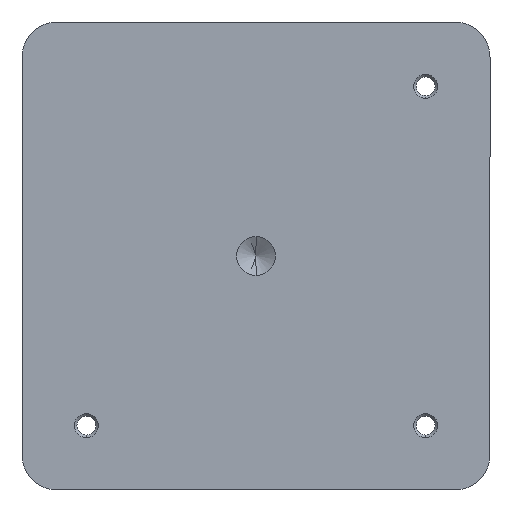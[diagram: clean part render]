
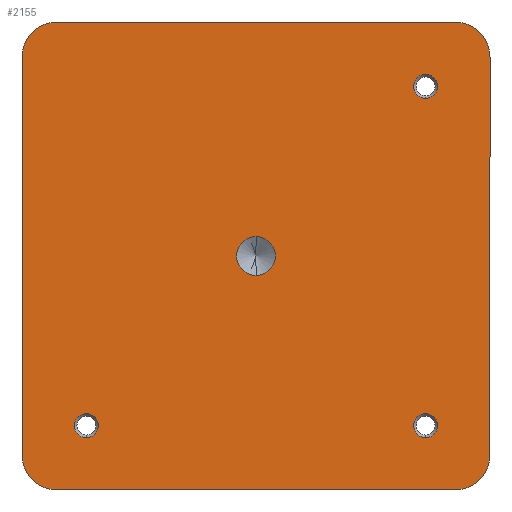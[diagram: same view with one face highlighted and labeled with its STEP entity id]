
A CAD part, front view. The second image highlights one B-rep face of the part: STEP entity #2155.
In plain terms, the highlighted planar face has unit normal (0, -1, 0).
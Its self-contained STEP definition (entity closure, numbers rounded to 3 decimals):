
#7 = AXIS2_PLACEMENT_3D ( 'NONE', #3069, #1051, #1799 ) ;
#30 = LINE ( 'NONE', #46, #2536 ) ;
#46 = CARTESIAN_POINT ( 'NONE',  ( -20., 0., -20. ) ) ;
#110 = DIRECTION ( 'NONE',  ( 0., 0., 1. ) ) ;
#132 = CIRCLE ( 'NONE', #432, 3. ) ;
#164 = AXIS2_PLACEMENT_3D ( 'NONE', #2588, #1459, #605 ) ;
#171 = EDGE_LOOP ( 'NONE', ( #1398, #2541, #2089, #1938, #2310, #997, #2315, #1463 ) ) ;
#284 = CARTESIAN_POINT ( 'NONE',  ( 17., 0., 20. ) ) ;
#289 = CARTESIAN_POINT ( 'NONE',  ( -17., 0., 20. ) ) ;
#297 = DIRECTION ( 'NONE',  ( 0., 1., 0. ) ) ;
#309 = DIRECTION ( 'NONE',  ( 0., -1., 0. ) ) ;
#324 = VERTEX_POINT ( 'NONE', #2363 ) ;
#384 = DIRECTION ( 'NONE',  ( 0., -1., 0. ) ) ;
#387 = EDGE_CURVE ( 'NONE', #2761, #525, #2923, .T. ) ;
#388 = DIRECTION ( 'NONE',  ( 0., 0., 1. ) ) ;
#424 = CIRCLE ( 'NONE', #1166, 1.025 ) ;
#432 = AXIS2_PLACEMENT_3D ( 'NONE', #1635, #627, #3082 ) ;
#487 = FACE_BOUND ( 'NONE', #2981, .T. ) ;
#525 = VERTEX_POINT ( 'NONE', #284 ) ;
#555 = DIRECTION ( 'NONE',  ( 0., 0., -1. ) ) ;
#558 = CARTESIAN_POINT ( 'NONE',  ( -14.5, 0., -15.525 ) ) ;
#566 = EDGE_CURVE ( 'NONE', #324, #2126, #1787, .T. ) ;
#605 = DIRECTION ( 'NONE',  ( 0., 0., -1. ) ) ;
#608 = CARTESIAN_POINT ( 'NONE',  ( 14.5, 0., -14.5 ) ) ;
#617 = EDGE_CURVE ( 'NONE', #1922, #1416, #132, .T. ) ;
#627 = DIRECTION ( 'NONE',  ( 0., -1., 0. ) ) ;
#703 = FACE_BOUND ( 'NONE', #2701, .T. ) ;
#709 = CARTESIAN_POINT ( 'NONE',  ( -20., 0., 20. ) ) ;
#716 = CARTESIAN_POINT ( 'NONE',  ( 0., 0., 0. ) ) ;
#728 = CARTESIAN_POINT ( 'NONE',  ( -20., 0., 17. ) ) ;
#758 = DIRECTION ( 'NONE',  ( 1., 0., 0. ) ) ;
#832 = DIRECTION ( 'NONE',  ( 0., -1., 0. ) ) ;
#843 = AXIS2_PLACEMENT_3D ( 'NONE', #1089, #1034, #1803 ) ;
#852 = CARTESIAN_POINT ( 'NONE',  ( -17., 0., 17. ) ) ;
#876 = CARTESIAN_POINT ( 'NONE',  ( -14.5, 0., -13.475 ) ) ;
#908 = ORIENTED_EDGE ( 'NONE', *, *, #1194, .F. ) ;
#939 = CARTESIAN_POINT ( 'NONE',  ( 14.5, 0., 13.475 ) ) ;
#968 = VERTEX_POINT ( 'NONE', #2478 ) ;
#981 = EDGE_CURVE ( 'NONE', #2477, #1387, #3022, .T. ) ;
#995 = AXIS2_PLACEMENT_3D ( 'NONE', #608, #297, #2039 ) ;
#997 = ORIENTED_EDGE ( 'NONE', *, *, #981, .T. ) ;
#1016 = CARTESIAN_POINT ( 'NONE',  ( -17., 0., -20. ) ) ;
#1034 = DIRECTION ( 'NONE',  ( 0., -1., 0. ) ) ;
#1039 = LINE ( 'NONE', #2766, #2092 ) ;
#1051 = DIRECTION ( 'NONE',  ( 0., 1., 0. ) ) ;
#1066 = DIRECTION ( 'NONE',  ( 0., 0., 1. ) ) ;
#1089 = CARTESIAN_POINT ( 'NONE',  ( 0., 0., 0. ) ) ;
#1097 = CARTESIAN_POINT ( 'NONE',  ( 20., 0., -20. ) ) ;
#1154 = VECTOR ( 'NONE', #3045, 1000. ) ;
#1164 = AXIS2_PLACEMENT_3D ( 'NONE', #2127, #1885, #388 ) ;
#1166 = AXIS2_PLACEMENT_3D ( 'NONE', #2693, #2888, #1911 ) ;
#1194 = EDGE_CURVE ( 'NONE', #2703, #968, #2430, .T. ) ;
#1198 = ORIENTED_EDGE ( 'NONE', *, *, #2441, .T. ) ;
#1223 = DIRECTION ( 'NONE',  ( 0., 0., 1. ) ) ;
#1271 = EDGE_LOOP ( 'NONE', ( #908, #1902 ) ) ;
#1300 = ORIENTED_EDGE ( 'NONE', *, *, #3193, .T. ) ;
#1341 = CARTESIAN_POINT ( 'NONE',  ( 0., 0., -1.65 ) ) ;
#1342 = EDGE_CURVE ( 'NONE', #2477, #2553, #30, .T. ) ;
#1387 = VERTEX_POINT ( 'NONE', #1016 ) ;
#1391 = VERTEX_POINT ( 'NONE', #2516 ) ;
#1394 = ORIENTED_EDGE ( 'NONE', *, *, #1540, .T. ) ;
#1398 = ORIENTED_EDGE ( 'NONE', *, *, #2330, .F. ) ;
#1416 = VERTEX_POINT ( 'NONE', #2229 ) ;
#1459 = DIRECTION ( 'NONE',  ( 0., -1., 0. ) ) ;
#1463 = ORIENTED_EDGE ( 'NONE', *, *, #617, .T. ) ;
#1540 = EDGE_CURVE ( 'NONE', #2126, #324, #2738, .T. ) ;
#1633 = AXIS2_PLACEMENT_3D ( 'NONE', #1774, #309, #1066 ) ;
#1635 = CARTESIAN_POINT ( 'NONE',  ( 17., 0., -17. ) ) ;
#1659 = DIRECTION ( 'NONE',  ( 0., 0., 1. ) ) ;
#1674 = AXIS2_PLACEMENT_3D ( 'NONE', #2863, #384, #2139 ) ;
#1677 = CARTESIAN_POINT ( 'NONE',  ( 20., 0., 17. ) ) ;
#1705 = FACE_OUTER_BOUND ( 'NONE', #171, .T. ) ;
#1720 = CIRCLE ( 'NONE', #2287, 3. ) ;
#1739 = FACE_BOUND ( 'NONE', #1271, .T. ) ;
#1774 = CARTESIAN_POINT ( 'NONE',  ( -17., 0., -17. ) ) ;
#1787 = CIRCLE ( 'NONE', #3169, 1.025 ) ;
#1799 = DIRECTION ( 'NONE',  ( 0., 0., 1. ) ) ;
#1802 = EDGE_CURVE ( 'NONE', #2761, #2553, #1720, .T. ) ;
#1803 = DIRECTION ( 'NONE',  ( 0., 0., -1. ) ) ;
#1844 = VERTEX_POINT ( 'NONE', #558 ) ;
#1874 = EDGE_CURVE ( 'NONE', #3171, #1391, #2393, .T. ) ;
#1885 = DIRECTION ( 'NONE',  ( 0., 1., 0. ) ) ;
#1902 = ORIENTED_EDGE ( 'NONE', *, *, #2659, .F. ) ;
#1911 = DIRECTION ( 'NONE',  ( 0., 0., 1. ) ) ;
#1912 = ORIENTED_EDGE ( 'NONE', *, *, #566, .T. ) ;
#1922 = VERTEX_POINT ( 'NONE', #2561 ) ;
#1937 = CARTESIAN_POINT ( 'NONE',  ( -14.5, 0., -14.5 ) ) ;
#1938 = ORIENTED_EDGE ( 'NONE', *, *, #1802, .T. ) ;
#1940 = EDGE_CURVE ( 'NONE', #1922, #1387, #2070, .T. ) ;
#1951 = VERTEX_POINT ( 'NONE', #1677 ) ;
#1966 = PLANE ( 'NONE',  #3109 ) ;
#2025 = DIRECTION ( 'NONE',  ( 0., 1., 0. ) ) ;
#2039 = DIRECTION ( 'NONE',  ( 0., 0., 1. ) ) ;
#2070 = LINE ( 'NONE', #1097, #1154 ) ;
#2089 = ORIENTED_EDGE ( 'NONE', *, *, #387, .F. ) ;
#2092 = VECTOR ( 'NONE', #555, 1000. ) ;
#2126 = VERTEX_POINT ( 'NONE', #939 ) ;
#2127 = CARTESIAN_POINT ( 'NONE',  ( -14.5, 0., -14.5 ) ) ;
#2139 = DIRECTION ( 'NONE',  ( 0., 0., 1. ) ) ;
#2155 = ADVANCED_FACE ( 'NONE', ( #1739, #487, #3173, #703, #1705 ), #1966, .F. ) ;
#2229 = CARTESIAN_POINT ( 'NONE',  ( 20., 0., -17. ) ) ;
#2241 = DIRECTION ( 'NONE',  ( 0., 0., 1. ) ) ;
#2276 = CARTESIAN_POINT ( 'NONE',  ( 14.5, 0., 14.5 ) ) ;
#2287 = AXIS2_PLACEMENT_3D ( 'NONE', #852, #832, #2821 ) ;
#2295 = CIRCLE ( 'NONE', #843, 1.65 ) ;
#2310 = ORIENTED_EDGE ( 'NONE', *, *, #1342, .F. ) ;
#2315 = ORIENTED_EDGE ( 'NONE', *, *, #1940, .F. ) ;
#2320 = ORIENTED_EDGE ( 'NONE', *, *, #2924, .T. ) ;
#2330 = EDGE_CURVE ( 'NONE', #1951, #1416, #1039, .T. ) ;
#2363 = CARTESIAN_POINT ( 'NONE',  ( 14.5, 0., 15.525 ) ) ;
#2393 = CIRCLE ( 'NONE', #995, 1.025 ) ;
#2399 = CARTESIAN_POINT ( 'NONE',  ( -20., 0., -17. ) ) ;
#2430 = CIRCLE ( 'NONE', #164, 1.65 ) ;
#2441 = EDGE_CURVE ( 'NONE', #1844, #2877, #2644, .T. ) ;
#2477 = VERTEX_POINT ( 'NONE', #2399 ) ;
#2478 = CARTESIAN_POINT ( 'NONE',  ( 0., 0., 1.65 ) ) ;
#2516 = CARTESIAN_POINT ( 'NONE',  ( 14.5, 0., -13.475 ) ) ;
#2536 = VECTOR ( 'NONE', #1223, 1000. ) ;
#2541 = ORIENTED_EDGE ( 'NONE', *, *, #2809, .T. ) ;
#2553 = VERTEX_POINT ( 'NONE', #728 ) ;
#2561 = CARTESIAN_POINT ( 'NONE',  ( 17., 0., -20. ) ) ;
#2562 = CARTESIAN_POINT ( 'NONE',  ( 14.5, 0., -15.525 ) ) ;
#2588 = CARTESIAN_POINT ( 'NONE',  ( 0., 0., 0. ) ) ;
#2644 = CIRCLE ( 'NONE', #1164, 1.025 ) ;
#2659 = EDGE_CURVE ( 'NONE', #968, #2703, #2295, .T. ) ;
#2683 = DIRECTION ( 'NONE',  ( 0., 1., 0. ) ) ;
#2693 = CARTESIAN_POINT ( 'NONE',  ( 14.5, 0., -14.5 ) ) ;
#2701 = EDGE_LOOP ( 'NONE', ( #1394, #1912 ) ) ;
#2703 = VERTEX_POINT ( 'NONE', #1341 ) ;
#2738 = CIRCLE ( 'NONE', #7, 1.025 ) ;
#2755 = VECTOR ( 'NONE', #758, 1000. ) ;
#2761 = VERTEX_POINT ( 'NONE', #289 ) ;
#2766 = CARTESIAN_POINT ( 'NONE',  ( 20., 0., 20. ) ) ;
#2789 = ORIENTED_EDGE ( 'NONE', *, *, #1874, .T. ) ;
#2809 = EDGE_CURVE ( 'NONE', #1951, #525, #2858, .T. ) ;
#2821 = DIRECTION ( 'NONE',  ( 0., 0., 1. ) ) ;
#2834 = EDGE_LOOP ( 'NONE', ( #2789, #2320 ) ) ;
#2852 = DIRECTION ( 'NONE',  ( 0., 1., 0. ) ) ;
#2856 = AXIS2_PLACEMENT_3D ( 'NONE', #1937, #2852, #1659 ) ;
#2858 = CIRCLE ( 'NONE', #1674, 3. ) ;
#2863 = CARTESIAN_POINT ( 'NONE',  ( 17., 0., 17. ) ) ;
#2877 = VERTEX_POINT ( 'NONE', #876 ) ;
#2888 = DIRECTION ( 'NONE',  ( 0., 1., 0. ) ) ;
#2923 = LINE ( 'NONE', #709, #2755 ) ;
#2924 = EDGE_CURVE ( 'NONE', #1391, #3171, #424, .T. ) ;
#2981 = EDGE_LOOP ( 'NONE', ( #1198, #1300 ) ) ;
#3009 = CIRCLE ( 'NONE', #2856, 1.025 ) ;
#3022 = CIRCLE ( 'NONE', #1633, 3. ) ;
#3045 = DIRECTION ( 'NONE',  ( -1., 0., 0. ) ) ;
#3069 = CARTESIAN_POINT ( 'NONE',  ( 14.5, 0., 14.5 ) ) ;
#3082 = DIRECTION ( 'NONE',  ( 0., 0., 1. ) ) ;
#3109 = AXIS2_PLACEMENT_3D ( 'NONE', #716, #2683, #2241 ) ;
#3169 = AXIS2_PLACEMENT_3D ( 'NONE', #2276, #2025, #110 ) ;
#3171 = VERTEX_POINT ( 'NONE', #2562 ) ;
#3173 = FACE_BOUND ( 'NONE', #2834, .T. ) ;
#3193 = EDGE_CURVE ( 'NONE', #2877, #1844, #3009, .T. ) ;
